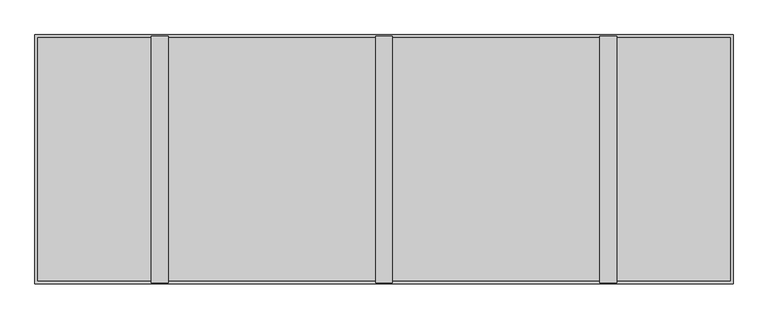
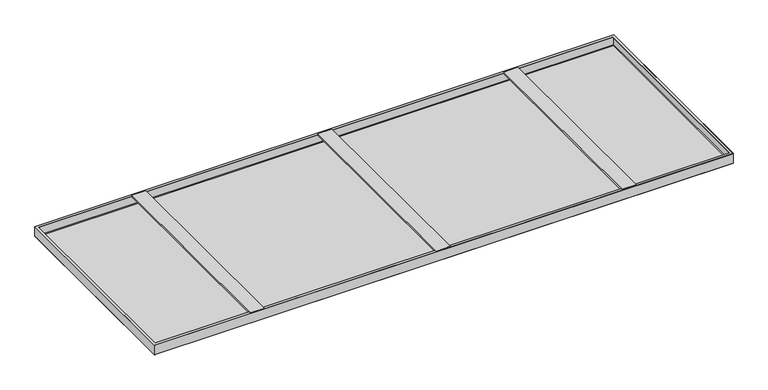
"""IFC4 building model written with IfcOpenShell, lengths in millimetres: proxy geometry, durlum_dur_SOLO_TYPE1 : durlum_dur_SOLO_TYPE1."""

from ifc_helpers import new_model, si_unit, frame, origin, origin_with_axes, place, context, project, spatial, polyline, outline, extrude, source, transform, mapped, element, save


def generic_models_5acbdc38(model_context):
    return source(origin(), model_context, "Body", "SweptSolid", [
        extrude(outline(polyline([(50.0, -33.8181105), (41.2547795, -33.8181105), (41.2547795, -31.2987062), (47.2031398, -31.2987062), (47.2031398, 31.2987062), (41.2547795, 31.2987062), (41.2547795, 33.8181105), (50.0, 33.8181105), (50.0, -33.8181105)])), frame((0.0, -495.0, 0.0), z_axis=(0.0, 1.0, 0.0), x_axis=(0.0, 0.0, 1.0)), (0.0, 0.0, 1.0), 990.0),
        extrude(outline(polyline([(50.0, 866.1818895), (41.2547795, 866.1818895), (41.2547795, 868.7012938), (47.2031398, 868.7012938), (47.2031398, 931.2987062), (41.2547795, 931.2987062), (41.2547795, 933.8181105), (50.0, 933.8181105), (50.0, 866.1818895)])), frame((0.0, -495.0, 0.0), z_axis=(0.0, 1.0, 0.0), x_axis=(0.0, 0.0, 1.0)), (0.0, 0.0, 1.0), 990.0),
        extrude(outline(polyline([(50.0, -933.8181105), (41.2547795, -933.8181105), (41.2547795, -931.2987062), (47.2031398, -931.2987062), (47.2031398, -868.7012938), (41.2547795, -868.7012938), (41.2547795, -866.1818895), (50.0, -866.1818895), (50.0, -933.8181105)])), frame((0.0, -495.0, 0.0), z_axis=(0.0, 1.0, 0.0), x_axis=(0.0, 0.0, 1.0)), (0.0, 0.0, 1.0), 990.0),
        extrude(outline(polyline([(1400.0, 500.0), (1400.0, -500.0), (-1400.0, -500.0), (-1400.0, 500.0), (1400.0, 500.0)]), holes=[polyline([(-1388.0, 488.0), (-1388.0, -488.0), (1388.0, -488.0), (1388.0, 488.0), (-1388.0, 488.0)])]), frame((0.0, 0.0, 49.4), z_axis=(0.0, 0.0, 1.0), x_axis=(1.0, 0.0, 0.0)), (0.0, 0.0, 1.0), 0.6),
        extrude(outline(polyline([(1400.0, 500.0), (1400.0, -500.0), (-1400.0, -500.0), (-1400.0, 500.0), (1400.0, 500.0)]), holes=[polyline([(1399.4, 499.4), (-1399.4, 499.4), (-1399.4, -499.4), (1399.4, -499.4), (1399.4, 499.4)])]), frame((0.0, 0.0, 0.6), z_axis=(0.0, 0.0, 1.0), x_axis=(1.0, 0.0, 0.0)), (0.0, 0.0, 1.0), 49.4),
        extrude(outline(polyline([(1392.0, 492.0), (1392.0, -492.0), (-1392.0, -492.0), (-1392.0, 492.0), (1392.0, 492.0)])), frame((0.0, 0.0, 0.6), z_axis=(0.0, 0.0, 1.0), x_axis=(1.0, 0.0, 0.0)), (0.0, 0.0, 1.0), 0.6),
        extrude(outline(polyline([(1400.0, 500.0), (1400.0, -500.0), (-1400.0, -500.0), (-1400.0, 500.0), (1400.0, 500.0)]), holes=[polyline([(1392.0, 492.0), (-1392.0, 492.0), (-1392.0, -492.0), (1392.0, -492.0), (1392.0, 492.0)])]), origin_with_axes(), (0.0, 0.0, 1.0), 0.6),
        extrude(outline(polyline([(1392.0, 492.0), (1392.0, -492.0), (-1392.0, -492.0), (-1392.0, 492.0), (1392.0, 492.0)])), origin_with_axes(), (0.0, 0.0, 1.0), 0.6),
    ])


if __name__ == "__main__":
    model = new_model("IFC4")
    model_context = context("Model", 3, world=origin())
    ifc_project = project(units=[si_unit("LENGTHUNIT", "METRE", prefix="MILLI")], contexts=[model_context])
    site = spatial("IfcSite", under=ifc_project)
    building = spatial("IfcBuilding", under=site)
    placement = place(None, origin())
    generic_models_shape = generic_models_5acbdc38(model_context)
    element("IfcBuildingElementProxy", 1, Name="durlum_dur_SOLO_TYPE1 : durlum_dur_SOLO_TYPE1", ObjectType="durlum_dur_SOLO_TYPE1 : durlum_dur_SOLO_TYPE1", at=placement, inside=building, context=model_context, shape_type="MappedRepresentation", body=[
        mapped(generic_models_shape, transform((0.0, 0.0, 0.0), x_axis=(1.0, 0.0, 0.0), y_axis=(0.0, 1.0, 0.0), z_axis=(0.0, 0.0, 1.0))),
    ])
    save(model, "model.ifc")
